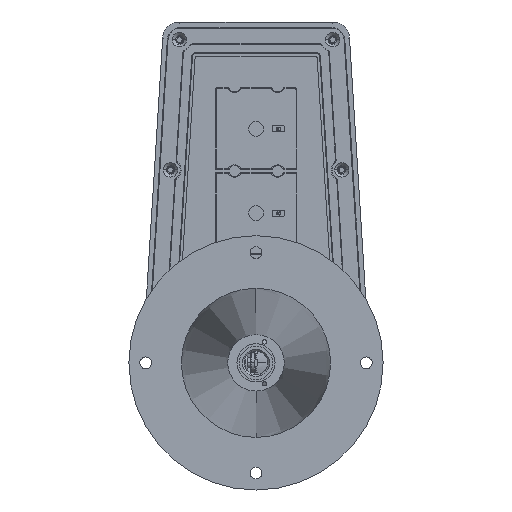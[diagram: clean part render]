
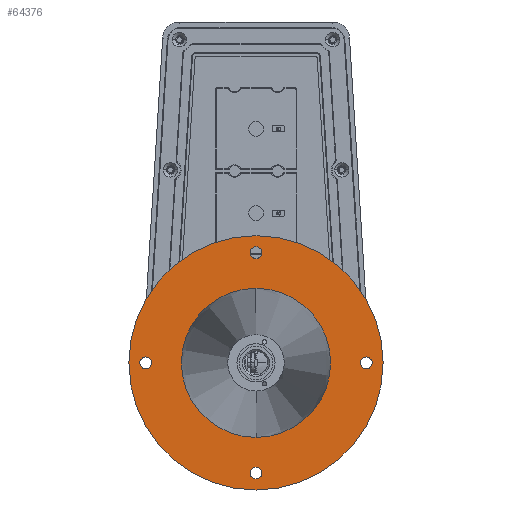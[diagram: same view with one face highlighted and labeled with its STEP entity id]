
A CAD part, front view. The second image highlights one B-rep face of the part: STEP entity #64376.
In plain terms, the highlighted planar face has unit normal (0, -1, 0) as drawn and (0, 0, -1) by its records, which use the part's own axes.
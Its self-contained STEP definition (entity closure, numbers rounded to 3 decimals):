
#64108=CARTESIAN_POINT('',(0.,0.,-457.983));
#64109=DIRECTION('',(0.,0.,-1.));
#64110=DIRECTION('',(1.,0.,0.));
#64111=AXIS2_PLACEMENT_3D('',#64108,#64109,#64110);
#64113=CARTESIAN_POINT('',(0.,0.,-457.983));
#64114=DIRECTION('',(0.,0.,-1.));
#64115=DIRECTION('',(-1.,0.,0.));
#64116=AXIS2_PLACEMENT_3D('',#64113,#64114,#64115);
#64118=CARTESIAN_POINT('',(0.,65.,-457.983));
#64119=DIRECTION('',(0.,0.,1.));
#64120=DIRECTION('',(1.,0.,0.));
#64121=AXIS2_PLACEMENT_3D('',#64118,#64119,#64120);
#64123=CARTESIAN_POINT('',(0.,65.,-457.983));
#64124=DIRECTION('',(0.,0.,1.));
#64125=DIRECTION('',(-1.,0.,0.));
#64126=AXIS2_PLACEMENT_3D('',#64123,#64124,#64125);
#64128=CARTESIAN_POINT('',(-65.,0.,-457.983));
#64129=DIRECTION('',(0.,0.,1.));
#64130=DIRECTION('',(1.,0.,0.));
#64131=AXIS2_PLACEMENT_3D('',#64128,#64129,#64130);
#64133=CARTESIAN_POINT('',(-65.,0.,-457.983));
#64134=DIRECTION('',(0.,0.,1.));
#64135=DIRECTION('',(-1.,0.,0.));
#64136=AXIS2_PLACEMENT_3D('',#64133,#64134,#64135);
#64138=CARTESIAN_POINT('',(65.,0.,-457.983));
#64139=DIRECTION('',(0.,0.,1.));
#64140=DIRECTION('',(1.,0.,0.));
#64141=AXIS2_PLACEMENT_3D('',#64138,#64139,#64140);
#64143=CARTESIAN_POINT('',(65.,0.,-457.983));
#64144=DIRECTION('',(0.,0.,1.));
#64145=DIRECTION('',(-1.,0.,0.));
#64146=AXIS2_PLACEMENT_3D('',#64143,#64144,#64145);
#64148=CARTESIAN_POINT('',(0.,-65.,-457.983));
#64149=DIRECTION('',(0.,0.,1.));
#64150=DIRECTION('',(1.,0.,0.));
#64151=AXIS2_PLACEMENT_3D('',#64148,#64149,#64150);
#64153=CARTESIAN_POINT('',(0.,-65.,-457.983));
#64154=DIRECTION('',(0.,0.,1.));
#64155=DIRECTION('',(-1.,0.,0.));
#64156=AXIS2_PLACEMENT_3D('',#64153,#64154,#64155);
#64158=CARTESIAN_POINT('',(0.,0.,-457.983));
#64159=DIRECTION('',(0.,0.,1.));
#64160=DIRECTION('',(-1.,0.,0.));
#64161=AXIS2_PLACEMENT_3D('',#64158,#64159,#64160);
#64163=CARTESIAN_POINT('',(0.,0.,-457.983));
#64164=DIRECTION('',(0.,0.,1.));
#64165=DIRECTION('',(1.,0.,0.));
#64166=AXIS2_PLACEMENT_3D('',#64163,#64164,#64165);
#64281=CARTESIAN_POINT('',(-3.5,-65.,-457.983));
#64283=VERTEX_POINT('',#64281);
#64284=CARTESIAN_POINT('',(3.5,65.,-457.983));
#64285=CARTESIAN_POINT('',(-3.5,65.,-457.983));
#64286=VERTEX_POINT('',#64284);
#64287=VERTEX_POINT('',#64285);
#64288=CARTESIAN_POINT('',(-75.,0.,-457.983));
#64289=CARTESIAN_POINT('',(75.,0.,-457.983));
#64290=VERTEX_POINT('',#64288);
#64291=VERTEX_POINT('',#64289);
#64293=CARTESIAN_POINT('',(-61.5,0.,-457.983));
#64295=VERTEX_POINT('',#64293);
#64297=CARTESIAN_POINT('',(-68.5,0.,-457.983));
#64299=VERTEX_POINT('',#64297);
#64301=CARTESIAN_POINT('',(68.5,0.,-457.983));
#64303=VERTEX_POINT('',#64301);
#64304=CARTESIAN_POINT('',(61.5,0.,-457.983));
#64305=VERTEX_POINT('',#64304);
#64310=CARTESIAN_POINT('',(3.5,-65.,-457.983));
#64311=VERTEX_POINT('',#64310);
#64316=CARTESIAN_POINT('',(-43.996,0.,-457.983));
#64317=VERTEX_POINT('',#64316);
#64318=CARTESIAN_POINT('',(43.996,0.,-457.983));
#64319=VERTEX_POINT('',#64318);
#64336=CARTESIAN_POINT('',(0.,0.,-457.983));
#64337=DIRECTION('',(0.,0.,-1.));
#64338=DIRECTION('',(-1.,0.,0.));
#64339=AXIS2_PLACEMENT_3D('',#64336,#64337,#64338);
#64340=PLANE('',#64339);
#64342=ORIENTED_EDGE('',*,*,#64341,.F.);
#64344=ORIENTED_EDGE('',*,*,#64343,.F.);
#64345=EDGE_LOOP('',(#64342,#64344));
#64346=FACE_OUTER_BOUND('',#64345,.F.);
#64348=ORIENTED_EDGE('',*,*,#64347,.F.);
#64350=ORIENTED_EDGE('',*,*,#64349,.F.);
#64351=EDGE_LOOP('',(#64348,#64350));
#64352=FACE_BOUND('',#64351,.F.);
#64354=ORIENTED_EDGE('',*,*,#64353,.F.);
#64356=ORIENTED_EDGE('',*,*,#64355,.F.);
#64357=EDGE_LOOP('',(#64354,#64356));
#64358=FACE_BOUND('',#64357,.F.);
#64360=ORIENTED_EDGE('',*,*,#64359,.F.);
#64361=ORIENTED_EDGE('',*,*,#64325,.F.);
#64362=EDGE_LOOP('',(#64360,#64361));
#64363=FACE_BOUND('',#64362,.F.);
#64365=ORIENTED_EDGE('',*,*,#64364,.F.);
#64367=ORIENTED_EDGE('',*,*,#64366,.F.);
#64368=EDGE_LOOP('',(#64365,#64367));
#64369=FACE_BOUND('',#64368,.F.);
#64371=ORIENTED_EDGE('',*,*,#64370,.F.);
#64373=ORIENTED_EDGE('',*,*,#64372,.F.);
#64374=EDGE_LOOP('',(#64371,#64373));
#64375=FACE_BOUND('',#64374,.F.);
#64376=ADVANCED_FACE('',(#64346,#64352,#64358,#64363,#64369,#64375),#64340,.T.);
#64112=CIRCLE('',#64111,75.);
#64117=CIRCLE('',#64116,75.);
#64122=CIRCLE('',#64121,3.5);
#64127=CIRCLE('',#64126,3.5);
#64132=CIRCLE('',#64131,3.5);
#64137=CIRCLE('',#64136,3.5);
#64142=CIRCLE('',#64141,3.5);
#64147=CIRCLE('',#64146,3.5);
#64152=CIRCLE('',#64151,3.5);
#64157=CIRCLE('',#64156,3.5);
#64162=CIRCLE('',#64161,43.996);
#64167=CIRCLE('',#64166,43.996);
#64325=EDGE_CURVE('',#64305,#64303,#64147,.T.);
#64341=EDGE_CURVE('',#64291,#64290,#64112,.T.);
#64343=EDGE_CURVE('',#64290,#64291,#64117,.T.);
#64347=EDGE_CURVE('',#64286,#64287,#64122,.T.);
#64349=EDGE_CURVE('',#64287,#64286,#64127,.T.);
#64353=EDGE_CURVE('',#64295,#64299,#64132,.T.);
#64355=EDGE_CURVE('',#64299,#64295,#64137,.T.);
#64359=EDGE_CURVE('',#64303,#64305,#64142,.T.);
#64364=EDGE_CURVE('',#64311,#64283,#64152,.T.);
#64366=EDGE_CURVE('',#64283,#64311,#64157,.T.);
#64370=EDGE_CURVE('',#64317,#64319,#64162,.T.);
#64372=EDGE_CURVE('',#64319,#64317,#64167,.T.);
